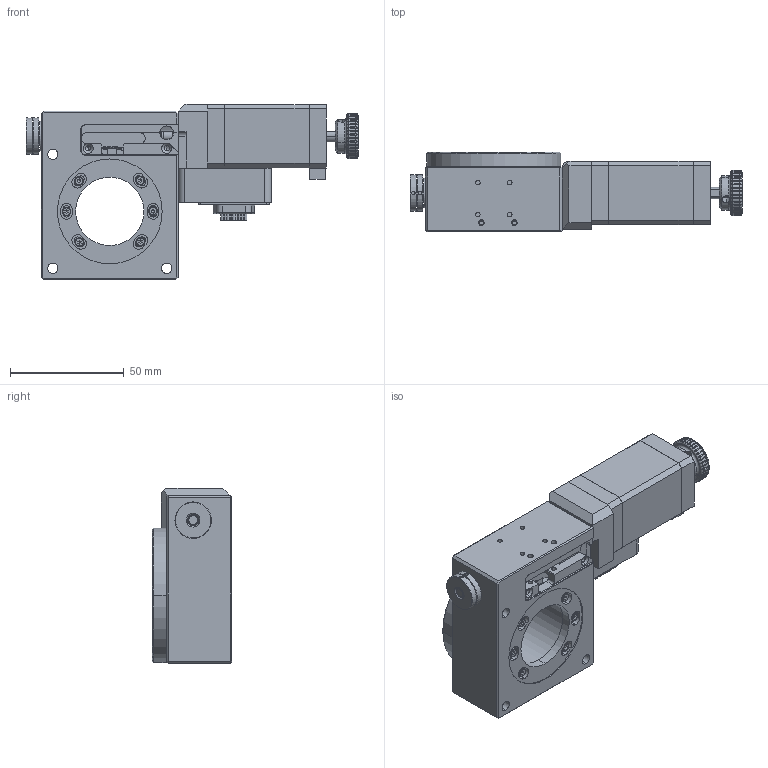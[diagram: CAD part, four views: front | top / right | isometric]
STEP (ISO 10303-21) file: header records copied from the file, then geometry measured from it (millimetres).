
FILE_DESCRIPTION (( 'STEP AP203' ), '1' );
FILE_NAME ('PX-GD60.STEP', '2025-09-18T07:30:50', ( '' ), ( '' ), 'SwSTEP 2.0', 'SolidWorks 2023', '' );
FILE_SCHEMA (( 'CONFIG_CONTROL_DESIGN' ));
Length unit declared in the file: millimetre
Products named in the file (6): PX-GD60; 9针座; 电机9针座标准件; STP-28D3003; PDV-28电机手轮
Assembly tree (5 placements, depth 2):
  PX-GD60
    PX-GD60
    STP-28D3003
    电机9针座标准件
    PDV-28电机手轮
    9针座
Bounding box: 145.8 x 35 x 77 mm (x, y, z)
Volume: 155105.3 mm3; surface area: 83045.7 mm2
Topology: 27 solids, 27 shells, 1518 faces, 3899 edges, 2489 vertices
Faces by surface type: cylinder 684, plane 576, cone 135, torus 70, bspline 35, sphere 18
Entity records: 66825 total; most frequent: CARTESIAN_POINT 29667, DIRECTION 7669, ORIENTED_EDGE 7654, EDGE_CURVE 3827, AXIS2_PLACEMENT_3D 2982, VERTEX_POINT 2471, EDGE_LOOP 1770, VECTOR 1705
